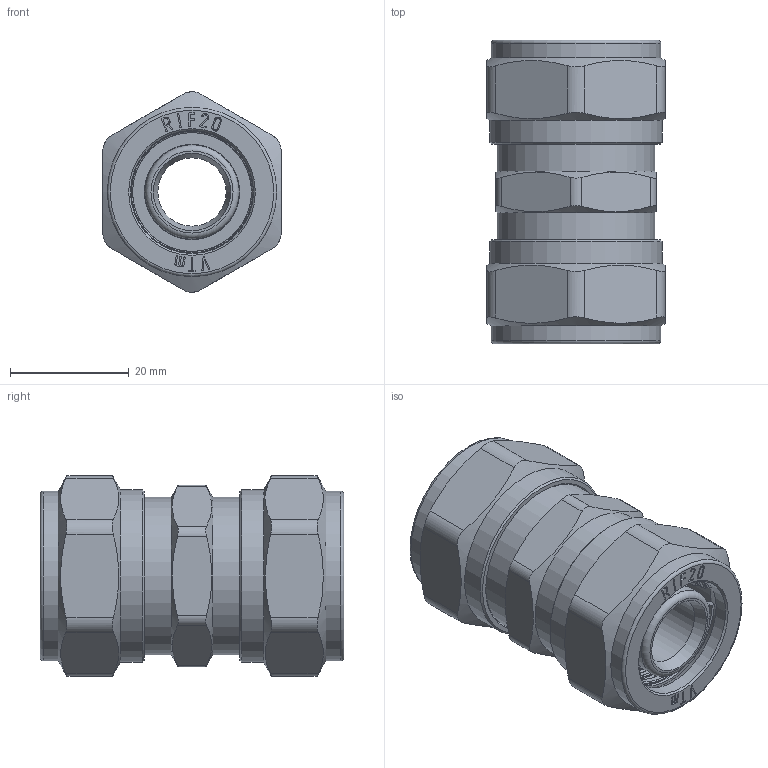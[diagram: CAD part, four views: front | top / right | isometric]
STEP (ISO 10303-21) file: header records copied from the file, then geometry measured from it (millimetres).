
FILE_DESCRIPTION(('STEP AP203'), '1');
FILE_NAME('VTm.303.N.002020', '', ('UNSPECIFIED'), ('UNSPECIFIED'), 'C3D Converter', 'C3D Toolkit', '');
FILE_SCHEMA(('CONFIG_CONTROL_DESIGN'));
Length unit declared in the file: millimetre
Products named in the file (1): ВР.302634.070.000 СБ
Bounding box: 30 x 51.06 x 33.7 mm (x, y, z)
Volume: 23512.8 mm3; surface area: 15789.1 mm2
Topology: 1 solids, 1 shells, 571 faces, 1559 edges, 1029 vertices
Faces by surface type: extrusion 234, plane 198, cylinder 63, torus 54, cone 22
Full cylindrical faces by diameter (mm): 11.5 x1, 15.8 x8, 15.9 x2, 20.1 x2, 20.2 x2, 20.7 x2, 24.118 x2, 26.441 x2, 28.5 x2, 29 x2
Entity records: 21476 total; most frequent: CARTESIAN_POINT 8410, ORIENTED_EDGE 2978, DIRECTION 1926, EDGE_CURVE 1489, VERTEX_POINT 1029, VECTOR 880, B_SPLINE_CURVE_WITH_KNOTS 852, EDGE_LOOP 686
